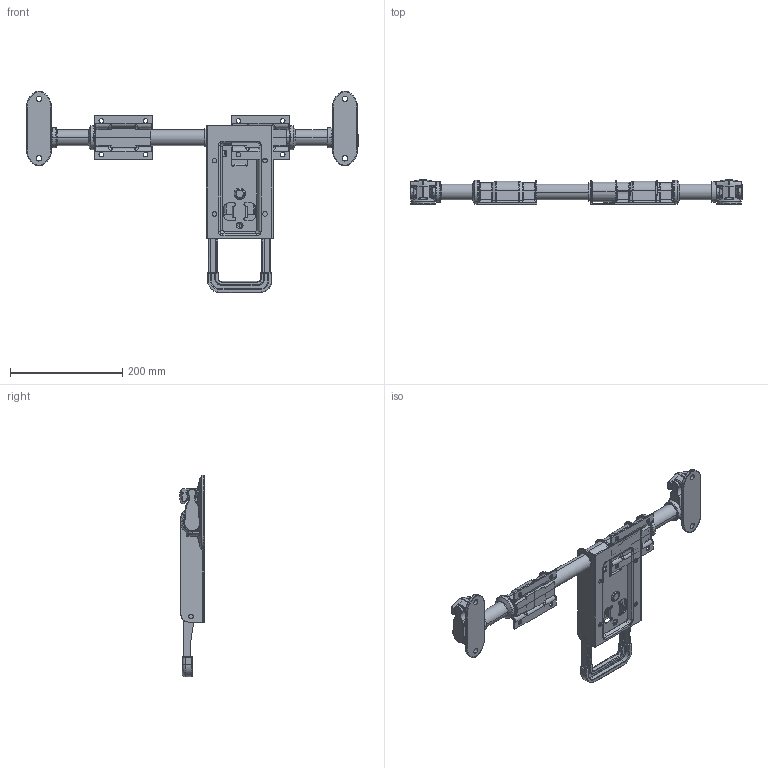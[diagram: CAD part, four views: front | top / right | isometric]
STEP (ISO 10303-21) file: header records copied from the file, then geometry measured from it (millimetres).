
FILE_DESCRIPTION (( 'STEP AP203' ), '1' );
FILE_NAME ('SK1-910.STEP', '2018-10-31T06:33:09', ( 'admin' ), ( 'Microsoft' ), 'SwSTEP 2.0', 'SolidWorks 2015', '' );
FILE_SCHEMA (( 'CONFIG_CONTROL_DESIGN' ));
Length unit declared in the file: millimetre
Products named in the file (18): SK1-910 翋极1 蜇璃 ; 蜇璃2 粣俋褲; SK1-910 翋极1 蜇璃2 ; 蜇璃3 粣笢1; SK1-910 翋极2; 蜇璃3 粣笢2; SK1-910 主体2 垫片1; 蜇璃4 粣 ; SK1-910 主体2 垫片2; 圆头十字M5公称长度6; SK1-910 翋极2 蜇璃; 蜇璃4 粣  - 萵掛; SK1-910 翋极2 坶; SK1-910 奪; SK1-910 翋极2 坶え; SK1-910 翋极1; SK1-910; 蜇璃1 粣
Assembly tree (22 placements, depth 2):
  SK1-910
    SK1-910 翋极1
    SK1-910 翋极1 蜇璃 
    SK1-910 翋极1 蜇璃2   x2
    SK1-910 翋极2
    SK1-910 主体2 垫片1
    SK1-910 主体2 垫片2
    SK1-910 翋极2 蜇璃
    SK1-910 翋极2 坶
    SK1-910 翋极2 坶え
    蜇璃1 粣  x2
    蜇璃2 粣俋褲  x2
    蜇璃3 粣笢1  x2
    蜇璃3 粣笢2  x2
    蜇璃4 粣 
    圆头十字M5公称长度6
    蜇璃4 粣  - 萵掛
    SK1-910 奪
Bounding box: 592.5 x 44.44 x 359.5 mm (x, y, z)
Volume: 813027.7 mm3; surface area: 423883.7 mm2
Topology: 23 solids, 23 shells, 2085 faces, 5359 edges, 3282 vertices
Faces by surface type: cylinder 698, plane 599, bspline 491, torus 193, sphere 76, cone 28
Entity records: 75256 total; most frequent: CARTESIAN_POINT 34794, ORIENTED_EDGE 8614, DIRECTION 7461, EDGE_CURVE 4307, AXIS2_PLACEMENT_3D 2881, VERTEX_POINT 2648, EDGE_LOOP 1827, FACE_OUTER_BOUND 1715
